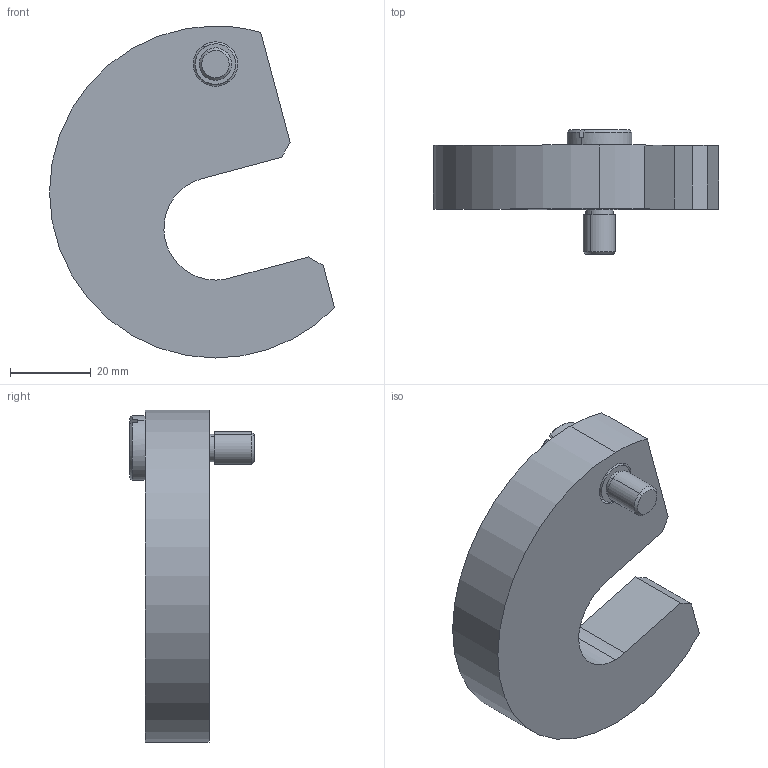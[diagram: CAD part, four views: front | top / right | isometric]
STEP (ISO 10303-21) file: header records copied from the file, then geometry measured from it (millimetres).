
FILE_DESCRIPTION (( 'STEP AP203' ), '1' );
FILE_NAME ('3662.W024.step', '2009-12-03T10:15:01', ( 'Wixroyd' ), ( 'Wixroyd' ), 'SwSTEP 2.0', 'SolidWorks 2009', '' );
FILE_SCHEMA (( 'CONFIG_CONTROL_DESIGN' ));
Length unit declared in the file: millimetre
Products named in the file (3): Part2_3670W009; 3662.W024; Part1_3662W024
Assembly tree (2 placements, depth 2):
  3662.W024
    Part1_3662W024
    Part2_3670W009
Bounding box: 70.4 x 30.8 x 82 mm (x, y, z)
Volume: 55117.6 mm3; surface area: 13377.3 mm2
Topology: 2 solids, 2 shells, 38 faces, 89 edges, 58 vertices
Faces by surface type: plane 17, cylinder 15, cone 4, torus 2
Entity records: 1416 total; most frequent: DIRECTION 213, CARTESIAN_POINT 202, ORIENTED_EDGE 178, EDGE_CURVE 89, AXIS2_PLACEMENT_3D 85, VERTEX_POINT 58, VECTOR 43, LINE 43
